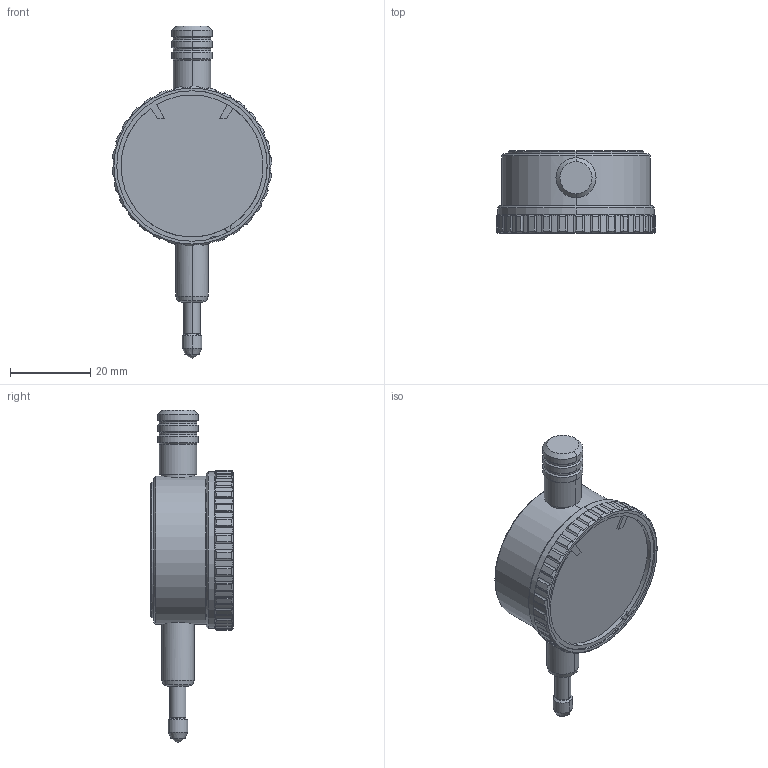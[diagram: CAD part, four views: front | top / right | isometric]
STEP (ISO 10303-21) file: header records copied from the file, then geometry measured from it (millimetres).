
FILE_DESCRIPTION(('STEP AP214'),'1');
FILE_NAME('SI-45-0,8.STP','2016-07-21T05:37:41',(' '),(' '),'Spatial InterOp 3D',' ',' ');
FILE_SCHEMA(('automotive_design'));
Length unit declared in the file: millimetre
Products named in the file (1): 1
Bounding box: 39.98 x 20.6 x 82.99 mm (x, y, z)
Volume: 23423.1 mm3; surface area: 6562.7 mm2
Topology: 1 solids, 4 shells, 291 faces, 772 edges, 498 vertices
Faces by surface type: cylinder 208, plane 48, cone 34, sphere 1
Entity records: 13345 total; most frequent: CARTESIAN_POINT 6308, ORIENTED_EDGE 1544, DIRECTION 1382, EDGE_CURVE 772, AXIS2_PLACEMENT_3D 544, VERTEX_POINT 498, EDGE_LOOP 312, LINE 294
